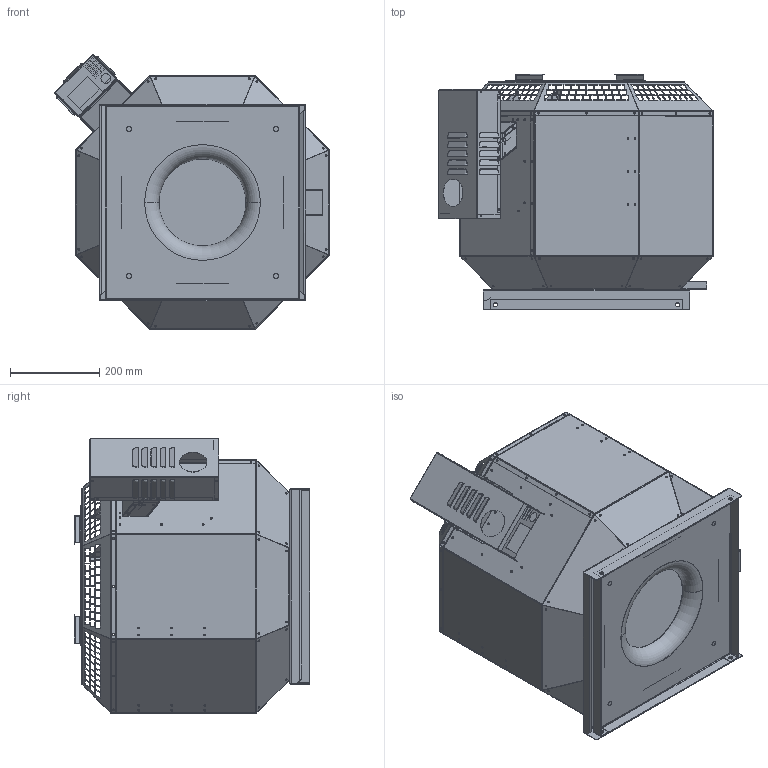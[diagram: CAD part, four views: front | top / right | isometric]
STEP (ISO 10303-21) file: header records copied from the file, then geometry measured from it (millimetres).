
FILE_DESCRIPTION (( 'STEP AP203' ), '1' );
FILE_NAME ('142180-00_DVN315D4F430_step.step', '2018-06-27T07:59:03', ( '' ), ( '' ), 'SwSTEP 2.0', 'SolidWorks 2017', '' );
FILE_SCHEMA (( 'CONFIG_CONTROL_DESIGN' ));
Products named in the file (1): 142180-00_DVN315D4F430_step
Bounding box: 616.06 x 528.51 x 616.06 mm (x, y, z)
Surface area: 3209844.9 mm2 (no closed solid volume)
Topology: 0 solids, 51 shells, 2234 faces, 9161 edges, 6553 vertices
Faces by surface type: plane 1779, cylinder 359, bspline 92, torus 4
Entity records: 113808 total; most frequent: CARTESIAN_POINT 36910, ORIENTED_EDGE 14508, DIRECTION 14488, EDGE_CURVE 9161, VECTOR 7208, LINE 7208, VERTEX_POINT 6553, EDGE_LOOP 3802
